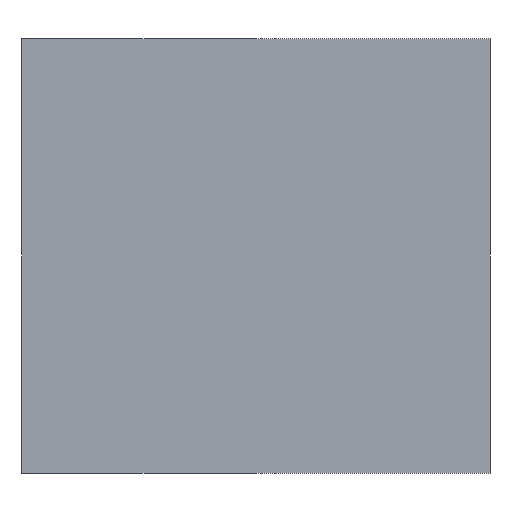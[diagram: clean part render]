
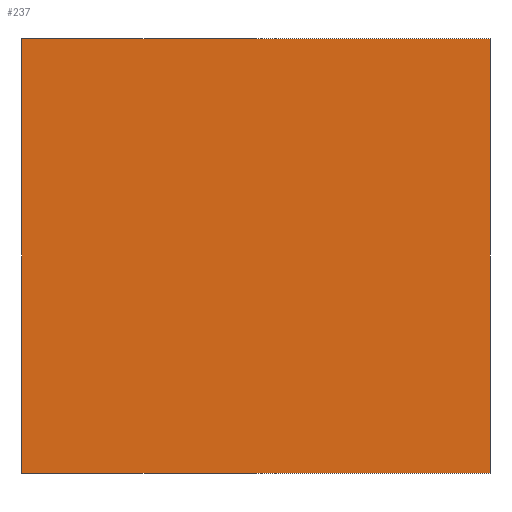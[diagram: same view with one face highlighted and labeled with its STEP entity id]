
A CAD part, front view. The second image highlights one B-rep face of the part: STEP entity #237.
In plain terms, the highlighted planar face has unit normal (0, -1, 0).
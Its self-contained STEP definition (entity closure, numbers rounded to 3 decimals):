
#21 = EDGE_CURVE('',#22,#24,#26,.T.);
#22 = VERTEX_POINT('',#23);
#23 = CARTESIAN_POINT('',(113.5,108.,270.));
#24 = VERTEX_POINT('',#25);
#25 = CARTESIAN_POINT('',(113.5,108.,283.));
#26 = SURFACE_CURVE('',#27,(#31,#43),.PCURVE_S1.);
#27 = LINE('',#28,#29);
#28 = CARTESIAN_POINT('',(113.5,108.,270.));
#29 = VECTOR('',#30,1.);
#30 = DIRECTION('',(0.,0.,1.));
#31 = PCURVE('',#32,#37);
#32 = PLANE('',#33);
#33 = AXIS2_PLACEMENT_3D('',#34,#35,#36);
#34 = CARTESIAN_POINT('',(113.5,108.,270.));
#35 = DIRECTION('',(1.,0.,-0.));
#36 = DIRECTION('',(0.,0.,1.));
#37 = DEFINITIONAL_REPRESENTATION('',(#38),#42);
#38 = LINE('',#39,#40);
#39 = CARTESIAN_POINT('',(0.,0.));
#40 = VECTOR('',#41,1.);
#41 = DIRECTION('',(1.,0.));
#42 = ( GEOMETRIC_REPRESENTATION_CONTEXT(2) 
PARAMETRIC_REPRESENTATION_CONTEXT() REPRESENTATION_CONTEXT('2D SPACE',''
  ) );
#43 = PCURVE('',#44,#49);
#44 = PLANE('',#45);
#45 = AXIS2_PLACEMENT_3D('',#46,#47,#48);
#46 = CARTESIAN_POINT('',(113.5,108.,270.));
#47 = DIRECTION('',(-0.,1.,0.));
#48 = DIRECTION('',(0.,0.,1.));
#49 = DEFINITIONAL_REPRESENTATION('',(#50),#54);
#50 = LINE('',#51,#52);
#51 = CARTESIAN_POINT('',(0.,0.));
#52 = VECTOR('',#53,1.);
#53 = DIRECTION('',(1.,0.));
#54 = ( GEOMETRIC_REPRESENTATION_CONTEXT(2) 
PARAMETRIC_REPRESENTATION_CONTEXT() REPRESENTATION_CONTEXT('2D SPACE',''
  ) );
#72 = PLANE('',#73);
#73 = AXIS2_PLACEMENT_3D('',#74,#75,#76);
#74 = CARTESIAN_POINT('',(113.5,108.,270.));
#75 = DIRECTION('',(0.,0.,1.));
#76 = DIRECTION('',(1.,0.,-0.));
#126 = PLANE('',#127);
#127 = AXIS2_PLACEMENT_3D('',#128,#129,#130);
#128 = CARTESIAN_POINT('',(113.5,108.,283.));
#129 = DIRECTION('',(0.,0.,1.));
#130 = DIRECTION('',(1.,0.,-0.));
#141 = EDGE_CURVE('',#142,#144,#146,.T.);
#142 = VERTEX_POINT('',#143);
#143 = CARTESIAN_POINT('',(127.5,108.,270.));
#144 = VERTEX_POINT('',#145);
#145 = CARTESIAN_POINT('',(127.5,108.,283.));
#146 = SURFACE_CURVE('',#147,(#151,#163),.PCURVE_S1.);
#147 = LINE('',#148,#149);
#148 = CARTESIAN_POINT('',(127.5,108.,270.));
#149 = VECTOR('',#150,1.);
#150 = DIRECTION('',(0.,0.,1.));
#151 = PCURVE('',#152,#157);
#152 = PLANE('',#153);
#153 = AXIS2_PLACEMENT_3D('',#154,#155,#156);
#154 = CARTESIAN_POINT('',(127.5,108.,270.));
#155 = DIRECTION('',(1.,0.,-0.));
#156 = DIRECTION('',(0.,0.,1.));
#157 = DEFINITIONAL_REPRESENTATION('',(#158),#162);
#158 = LINE('',#159,#160);
#159 = CARTESIAN_POINT('',(0.,0.));
#160 = VECTOR('',#161,1.);
#161 = DIRECTION('',(1.,0.));
#162 = ( GEOMETRIC_REPRESENTATION_CONTEXT(2) 
PARAMETRIC_REPRESENTATION_CONTEXT() REPRESENTATION_CONTEXT('2D SPACE',''
  ) );
#163 = PCURVE('',#44,#164);
#164 = DEFINITIONAL_REPRESENTATION('',(#165),#169);
#165 = LINE('',#166,#167);
#166 = CARTESIAN_POINT('',(0.,14.));
#167 = VECTOR('',#168,1.);
#168 = DIRECTION('',(1.,0.));
#169 = ( GEOMETRIC_REPRESENTATION_CONTEXT(2) 
PARAMETRIC_REPRESENTATION_CONTEXT() REPRESENTATION_CONTEXT('2D SPACE',''
  ) );
#237 = ADVANCED_FACE('',(#238),#44,.F.);
#238 = FACE_BOUND('',#239,.F.);
#239 = EDGE_LOOP('',(#240,#261,#262,#283));
#240 = ORIENTED_EDGE('',*,*,#241,.F.);
#241 = EDGE_CURVE('',#22,#142,#242,.T.);
#242 = SURFACE_CURVE('',#243,(#247,#254),.PCURVE_S1.);
#243 = LINE('',#244,#245);
#244 = CARTESIAN_POINT('',(113.5,108.,270.));
#245 = VECTOR('',#246,1.);
#246 = DIRECTION('',(1.,0.,-0.));
#247 = PCURVE('',#44,#248);
#248 = DEFINITIONAL_REPRESENTATION('',(#249),#253);
#249 = LINE('',#250,#251);
#250 = CARTESIAN_POINT('',(0.,0.));
#251 = VECTOR('',#252,1.);
#252 = DIRECTION('',(0.,1.));
#253 = ( GEOMETRIC_REPRESENTATION_CONTEXT(2) 
PARAMETRIC_REPRESENTATION_CONTEXT() REPRESENTATION_CONTEXT('2D SPACE',''
  ) );
#254 = PCURVE('',#72,#255);
#255 = DEFINITIONAL_REPRESENTATION('',(#256),#260);
#256 = LINE('',#257,#258);
#257 = CARTESIAN_POINT('',(0.,0.));
#258 = VECTOR('',#259,1.);
#259 = DIRECTION('',(1.,0.));
#260 = ( GEOMETRIC_REPRESENTATION_CONTEXT(2) 
PARAMETRIC_REPRESENTATION_CONTEXT() REPRESENTATION_CONTEXT('2D SPACE',''
  ) );
#261 = ORIENTED_EDGE('',*,*,#21,.T.);
#262 = ORIENTED_EDGE('',*,*,#263,.T.);
#263 = EDGE_CURVE('',#24,#144,#264,.T.);
#264 = SURFACE_CURVE('',#265,(#269,#276),.PCURVE_S1.);
#265 = LINE('',#266,#267);
#266 = CARTESIAN_POINT('',(113.5,108.,283.));
#267 = VECTOR('',#268,1.);
#268 = DIRECTION('',(1.,0.,-0.));
#269 = PCURVE('',#44,#270);
#270 = DEFINITIONAL_REPRESENTATION('',(#271),#275);
#271 = LINE('',#272,#273);
#272 = CARTESIAN_POINT('',(13.,0.));
#273 = VECTOR('',#274,1.);
#274 = DIRECTION('',(0.,1.));
#275 = ( GEOMETRIC_REPRESENTATION_CONTEXT(2) 
PARAMETRIC_REPRESENTATION_CONTEXT() REPRESENTATION_CONTEXT('2D SPACE',''
  ) );
#276 = PCURVE('',#126,#277);
#277 = DEFINITIONAL_REPRESENTATION('',(#278),#282);
#278 = LINE('',#279,#280);
#279 = CARTESIAN_POINT('',(0.,0.));
#280 = VECTOR('',#281,1.);
#281 = DIRECTION('',(1.,0.));
#282 = ( GEOMETRIC_REPRESENTATION_CONTEXT(2) 
PARAMETRIC_REPRESENTATION_CONTEXT() REPRESENTATION_CONTEXT('2D SPACE',''
  ) );
#283 = ORIENTED_EDGE('',*,*,#141,.F.);
